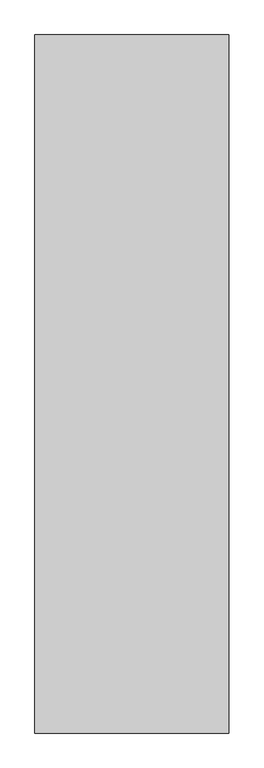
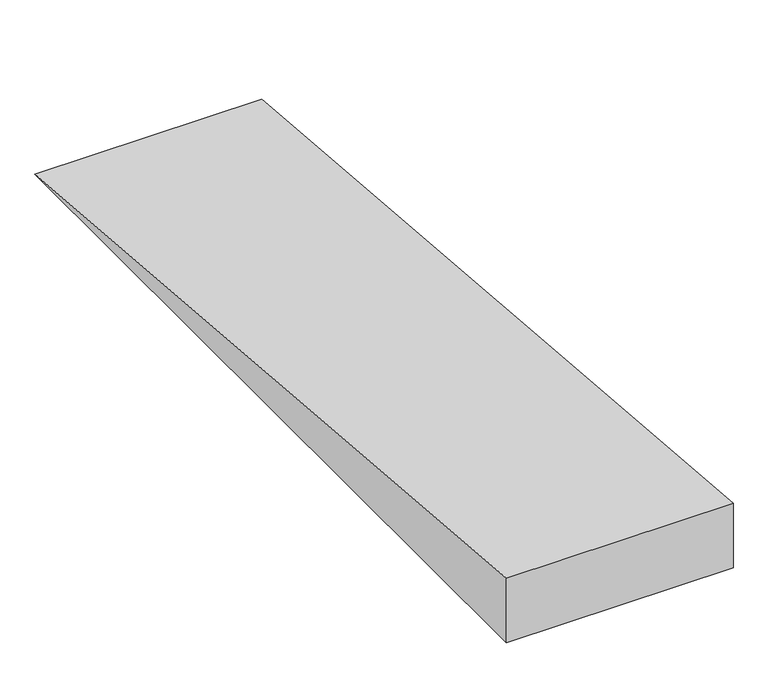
"""IFC4 building model written with IfcOpenShell, lengths in millimetres: ramp geometry, 教学楼坡道 – 1/12."""

from ifc_helpers import new_model, si_unit, frame, origin, place, context, project, spatial, polyline, outline, extrude, source, transform, mapped, element, save


def ramp_6c5225c9(model_context):
    return source(origin(), model_context, "Body", "SweptSolid", [
        extrude(outline(polyline([(21200.0, 0.0), (26600.0, -450.0), (21200.0, -450.0), (21200.0, 0.0)])), frame((750.0, 0.0, 0.0), z_axis=(1.0, 0.0, 0.0), x_axis=(0.0, 1.0, 0.0)), (0.0, 0.0, 1.0), 1500.0),
    ])


if __name__ == "__main__":
    model = new_model("IFC4")
    model_context = context("Model", 3, world=origin())
    ifc_project = project(units=[si_unit("LENGTHUNIT", "METRE", prefix="MILLI")], contexts=[model_context])
    site = spatial("IfcSite", under=ifc_project)
    building = spatial("IfcBuilding", under=site)
    placement = place(None, origin())
    ramp_shape = ramp_6c5225c9(model_context)
    element("IfcRamp", 1, ObjectType="教学楼坡道 – 1/12", at=placement, inside=building, context=model_context, shape_type="MappedRepresentation", body=[
        mapped(ramp_shape, transform((0.0, 0.0, 0.0), x_axis=(1.0, 0.0, 0.0), y_axis=(0.0, 1.0, 0.0), z_axis=(0.0, 0.0, 1.0))),
    ])
    save(model, "model.ifc")
